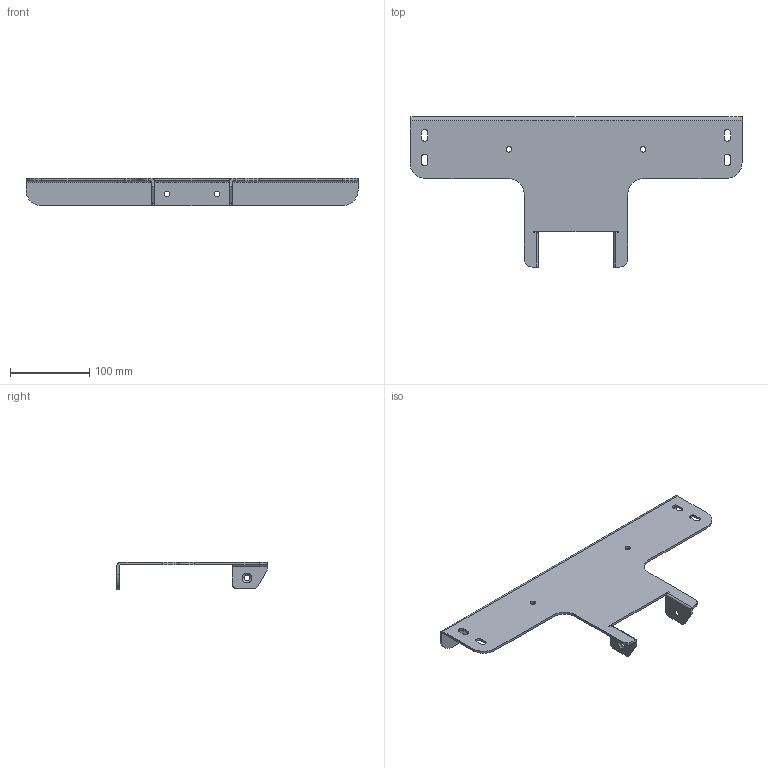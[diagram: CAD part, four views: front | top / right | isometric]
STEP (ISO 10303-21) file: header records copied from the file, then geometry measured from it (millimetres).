
FILE_DESCRIPTION(/* description */ ('Unknown'),/* implementation_level */ '2;1');
FILE_NAME(/* name */ '127.00803_00',/* time_stamp */ '2026-04-14T07:10:42+02:00',/* author */ ('Unknown'),/* organization */ ('Unknown'),/* preprocessor_version */ 'ST-DEVELOPER v20',/* originating_system */ 'Solid Edge',/* authorisation */ 'Unknown');
FILE_SCHEMA (('AUTOMOTIVE_DESIGN {1 0 10303 214 3 1 1}'));
Length unit declared in the file: millimetre
Products named in the file (1): 127.00803
Bounding box: 420 x 190 x 35 mm (x, y, z)
Volume: 171852.9 mm3; surface area: 119476.8 mm2
Topology: 1 solids, 1 shells, 77 faces, 221 edges, 146 vertices
Faces by surface type: cylinder 35, plane 34, cone 8
Entity records: 2617 total; most frequent: DIRECTION 461, CARTESIAN_POINT 445, ORIENTED_EDGE 442, EDGE_CURVE 221, AXIS2_PLACEMENT_3D 162, VERTEX_POINT 146, LINE 137, VECTOR 137
